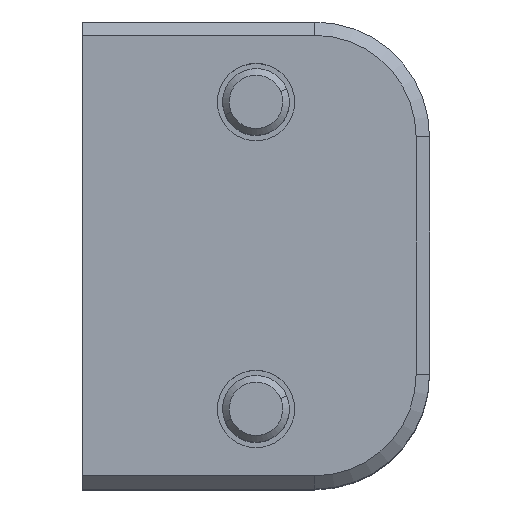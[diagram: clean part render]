
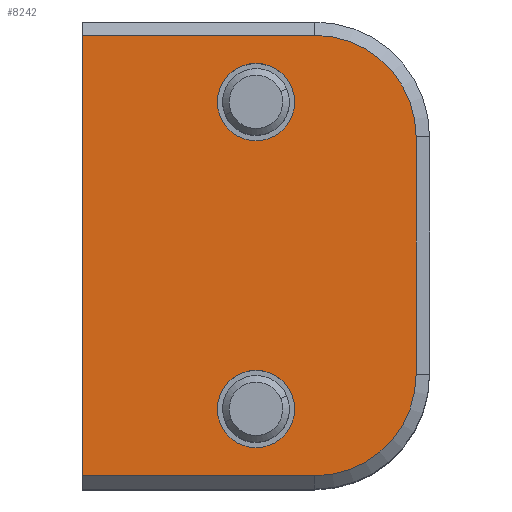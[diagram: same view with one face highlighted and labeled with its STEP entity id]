
A CAD part, top view. The second image highlights one B-rep face of the part: STEP entity #8242.
In plain terms, the highlighted planar face has unit normal (0, 0, 1).
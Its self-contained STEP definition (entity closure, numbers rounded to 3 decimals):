
#65 = CARTESIAN_POINT ( 'NONE',  ( 0., -8.6, 15. ) ) ;
#72 = EDGE_CURVE ( 'NONE', #10548, #11487, #852, .T. ) ;
#207 = LINE ( 'NONE', #11073, #4891 ) ;
#302 = VERTEX_POINT ( 'NONE', #65 ) ;
#344 = DIRECTION ( 'NONE',  ( 0., 1., 0. ) ) ;
#464 = PLANE ( 'NONE',  #4447 ) ;
#473 = DIRECTION ( 'NONE',  ( 0., 0., -1. ) ) ;
#509 = DIRECTION ( 'NONE',  ( -1., 0., 0. ) ) ;
#836 = CARTESIAN_POINT ( 'NONE',  ( -13., -16.5, 15. ) ) ;
#851 = CIRCLE ( 'NONE', #9637, 7.6 ) ;
#852 = CIRCLE ( 'NONE', #2226, 7.6 ) ;
#958 = EDGE_LOOP ( 'NONE', ( #6377, #10483 ) ) ;
#1146 = DIRECTION ( 'NONE',  ( 0., 1., 0. ) ) ;
#1201 = EDGE_CURVE ( 'NONE', #8795, #302, #10897, .T. ) ;
#1463 = DIRECTION ( 'NONE',  ( 0., 1., 0. ) ) ;
#1549 = DIRECTION ( 'NONE',  ( 0., 0., -1. ) ) ;
#1579 = AXIS2_PLACEMENT_3D ( 'NONE', #10351, #5770, #1146 ) ;
#1609 = DIRECTION ( 'NONE',  ( -1., 0., 0. ) ) ;
#1787 = FACE_OUTER_BOUND ( 'NONE', #1819, .T. ) ;
#1819 = EDGE_LOOP ( 'NONE', ( #4226, #6585, #3159, #4965, #5364, #3766 ) ) ;
#2079 = VERTEX_POINT ( 'NONE', #7357 ) ;
#2226 = AXIS2_PLACEMENT_3D ( 'NONE', #9057, #10968, #1609 ) ;
#2489 = EDGE_CURVE ( 'NONE', #4426, #10548, #11741, .T. ) ;
#2501 = CARTESIAN_POINT ( 'NONE',  ( 0., 8.6, 15. ) ) ;
#3060 = EDGE_CURVE ( 'NONE', #302, #8795, #3324, .T. ) ;
#3076 = EDGE_CURVE ( 'NONE', #11487, #9868, #6766, .T. ) ;
#3159 = ORIENTED_EDGE ( 'NONE', *, *, #3919, .T. ) ;
#3324 = CIRCLE ( 'NONE', #6674, 2.9 ) ;
#3690 = CIRCLE ( 'NONE', #11729, 2.9 ) ;
#3766 = ORIENTED_EDGE ( 'NONE', *, *, #3076, .T. ) ;
#3919 = EDGE_CURVE ( 'NONE', #2079, #4426, #207, .T. ) ;
#4226 = ORIENTED_EDGE ( 'NONE', *, *, #10551, .T. ) ;
#4426 = VERTEX_POINT ( 'NONE', #836 ) ;
#4447 = AXIS2_PLACEMENT_3D ( 'NONE', #10649, #6063, #509 ) ;
#4544 = CARTESIAN_POINT ( 'NONE',  ( 4.4, -16.5, 15. ) ) ;
#4753 = CARTESIAN_POINT ( 'NONE',  ( 13., -16.5, 15. ) ) ;
#4804 = DIRECTION ( 'NONE',  ( -1., 0., 0. ) ) ;
#4891 = VECTOR ( 'NONE', #10080, 1000. ) ;
#4965 = ORIENTED_EDGE ( 'NONE', *, *, #2489, .T. ) ;
#5195 = EDGE_CURVE ( 'NONE', #7345, #2079, #11831, .T. ) ;
#5274 = CARTESIAN_POINT ( 'NONE',  ( 0., 11.5, 15. ) ) ;
#5364 = ORIENTED_EDGE ( 'NONE', *, *, #72, .T. ) ;
#5365 = VERTEX_POINT ( 'NONE', #2501 ) ;
#5770 = DIRECTION ( 'NONE',  ( 0., 0., -1. ) ) ;
#5846 = DIRECTION ( 'NONE',  ( 1., 0., 0. ) ) ;
#6035 = CARTESIAN_POINT ( 'NONE',  ( 12., -17.5, 15. ) ) ;
#6063 = DIRECTION ( 'NONE',  ( 0., 0., -1. ) ) ;
#6350 = DIRECTION ( 'NONE',  ( -1., 0., 0. ) ) ;
#6377 = ORIENTED_EDGE ( 'NONE', *, *, #3060, .T. ) ;
#6585 = ORIENTED_EDGE ( 'NONE', *, *, #5195, .T. ) ;
#6674 = AXIS2_PLACEMENT_3D ( 'NONE', #7803, #473, #9631 ) ;
#6766 = LINE ( 'NONE', #6035, #11132 ) ;
#6896 = CARTESIAN_POINT ( 'NONE',  ( 12., 8.9, 15. ) ) ;
#7122 = DIRECTION ( 'NONE',  ( 0., 1., 0. ) ) ;
#7345 = VERTEX_POINT ( 'NONE', #9278 ) ;
#7357 = CARTESIAN_POINT ( 'NONE',  ( -13., 16.5, 15. ) ) ;
#7608 = CARTESIAN_POINT ( 'NONE',  ( 12., -8.9, 15. ) ) ;
#7657 = CARTESIAN_POINT ( 'NONE',  ( 13., 16.5, 15. ) ) ;
#7747 = EDGE_LOOP ( 'NONE', ( #10754, #9734 ) ) ;
#7774 = EDGE_CURVE ( 'NONE', #9731, #5365, #3690, .T. ) ;
#7803 = CARTESIAN_POINT ( 'NONE',  ( 0., -11.5, 15. ) ) ;
#8242 = ADVANCED_FACE ( 'NONE', ( #8726, #9320, #1787 ), #464, .F. ) ;
#8522 = VECTOR ( 'NONE', #5846, 1000. ) ;
#8556 = AXIS2_PLACEMENT_3D ( 'NONE', #9812, #1549, #7122 ) ;
#8726 = FACE_BOUND ( 'NONE', #7747, .T. ) ;
#8795 = VERTEX_POINT ( 'NONE', #9858 ) ;
#9057 = CARTESIAN_POINT ( 'NONE',  ( 4.4, -8.9, 15. ) ) ;
#9278 = CARTESIAN_POINT ( 'NONE',  ( 4.4, 16.5, 15. ) ) ;
#9320 = FACE_BOUND ( 'NONE', #958, .T. ) ;
#9349 = VECTOR ( 'NONE', #4804, 1000. ) ;
#9631 = DIRECTION ( 'NONE',  ( 0., 1., 0. ) ) ;
#9637 = AXIS2_PLACEMENT_3D ( 'NONE', #11168, #11909, #6350 ) ;
#9731 = VERTEX_POINT ( 'NONE', #10397 ) ;
#9734 = ORIENTED_EDGE ( 'NONE', *, *, #11965, .T. ) ;
#9812 = CARTESIAN_POINT ( 'NONE',  ( 0., -11.5, 15. ) ) ;
#9858 = CARTESIAN_POINT ( 'NONE',  ( 0., -14.4, 15. ) ) ;
#9868 = VERTEX_POINT ( 'NONE', #6896 ) ;
#10080 = DIRECTION ( 'NONE',  ( 0., -1., 0. ) ) ;
#10351 = CARTESIAN_POINT ( 'NONE',  ( 0., 11.5, 15. ) ) ;
#10397 = CARTESIAN_POINT ( 'NONE',  ( 0., 14.4, 15. ) ) ;
#10483 = ORIENTED_EDGE ( 'NONE', *, *, #1201, .T. ) ;
#10548 = VERTEX_POINT ( 'NONE', #4544 ) ;
#10551 = EDGE_CURVE ( 'NONE', #9868, #7345, #851, .T. ) ;
#10649 = CARTESIAN_POINT ( 'NONE',  ( 13., -17.5, 15. ) ) ;
#10754 = ORIENTED_EDGE ( 'NONE', *, *, #7774, .T. ) ;
#10897 = CIRCLE ( 'NONE', #8556, 2.9 ) ;
#10968 = DIRECTION ( 'NONE',  ( 0., 0., 1. ) ) ;
#11073 = CARTESIAN_POINT ( 'NONE',  ( -13., -17.5, 15. ) ) ;
#11132 = VECTOR ( 'NONE', #344, 1000. ) ;
#11168 = CARTESIAN_POINT ( 'NONE',  ( 4.4, 8.9, 15. ) ) ;
#11487 = VERTEX_POINT ( 'NONE', #7608 ) ;
#11729 = AXIS2_PLACEMENT_3D ( 'NONE', #5274, #11806, #1463 ) ;
#11741 = LINE ( 'NONE', #4753, #8522 ) ;
#11806 = DIRECTION ( 'NONE',  ( 0., 0., -1. ) ) ;
#11831 = LINE ( 'NONE', #7657, #9349 ) ;
#11882 = CIRCLE ( 'NONE', #1579, 2.9 ) ;
#11909 = DIRECTION ( 'NONE',  ( 0., 0., 1. ) ) ;
#11965 = EDGE_CURVE ( 'NONE', #5365, #9731, #11882, .T. ) ;
